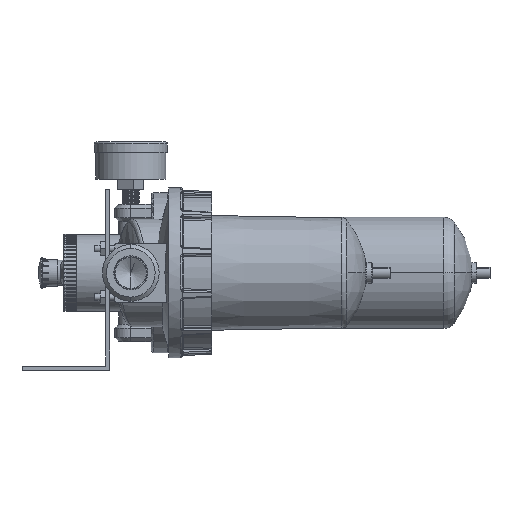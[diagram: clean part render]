
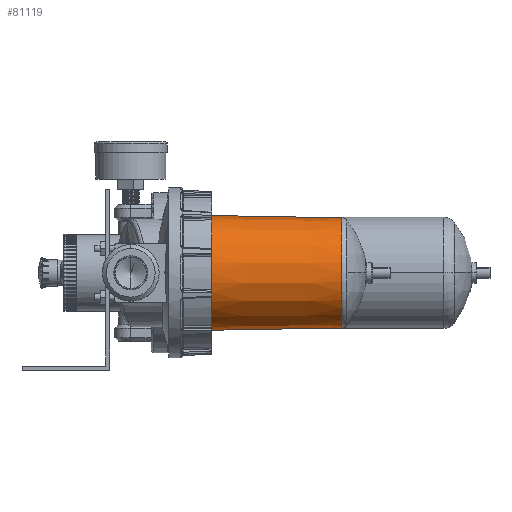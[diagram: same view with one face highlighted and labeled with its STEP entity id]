
A CAD part, left-side view. The second image highlights one B-rep face of the part: STEP entity #81119.
In plain terms, the highlighted conical face has half-angle 1 degrees and reference radius 40.75 mm.
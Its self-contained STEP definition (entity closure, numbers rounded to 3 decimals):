
#2519 = AXIS2_PLACEMENT_3D ( 'NONE', #72061, #3389, #58609 ) ;
#3389 = DIRECTION ( 'NONE',  ( 0., 1., 0. ) ) ;
#5481 = FACE_OUTER_BOUND ( 'NONE', #65193, .T. ) ;
#7512 = CARTESIAN_POINT ( 'NONE',  ( 0., 98.5, -42.469 ) ) ;
#21048 = ORIENTED_EDGE ( 'NONE', *, *, #43549, .F. ) ;
#21499 = EDGE_CURVE ( 'NONE', #22555, #67220, #43832, .T. ) ;
#21747 = CARTESIAN_POINT ( 'NONE',  ( 0., 2.184, 40.788 ) ) ;
#21987 = AXIS2_PLACEMENT_3D ( 'NONE', #65480, #27982, #71816 ) ;
#22555 = VERTEX_POINT ( 'NONE', #77978 ) ;
#25562 = VECTOR ( 'NONE', #80149, 1000. ) ;
#27982 = DIRECTION ( 'NONE',  ( 0., 1., 0. ) ) ;
#32211 = VERTEX_POINT ( 'NONE', #7512 ) ;
#36596 = CARTESIAN_POINT ( 'NONE',  ( 0., 0., 40.75 ) ) ;
#40537 = CARTESIAN_POINT ( 'NONE',  ( 0., 0., 0. ) ) ;
#40775 = ORIENTED_EDGE ( 'NONE', *, *, #72577, .T. ) ;
#42124 = AXIS2_PLACEMENT_3D ( 'NONE', #40537, #71211, #78076 ) ;
#43549 = EDGE_CURVE ( 'NONE', #22555, #32211, #67809, .T. ) ;
#43832 = CIRCLE ( 'NONE', #21987, 40.788 ) ;
#46880 = EDGE_CURVE ( 'NONE', #32211, #57449, #77477, .T. ) ;
#47554 = CARTESIAN_POINT ( 'NONE',  ( 0., 98.5, 42.469 ) ) ;
#50195 = ORIENTED_EDGE ( 'NONE', *, *, #46880, .F. ) ;
#51007 = LINE ( 'NONE', #36596, #25562 ) ;
#57449 = VERTEX_POINT ( 'NONE', #47554 ) ;
#58609 = DIRECTION ( 'NONE',  ( 0., 0., 1. ) ) ;
#62180 = CONICAL_SURFACE ( 'NONE', #42124, 40.75, 0.017 ) ;
#64885 = VECTOR ( 'NONE', #64926, 1000. ) ;
#64926 = DIRECTION ( 'NONE',  ( 0., 1., -0.017 ) ) ;
#65193 = EDGE_LOOP ( 'NONE', ( #21048, #73609, #40775, #50195 ) ) ;
#65480 = CARTESIAN_POINT ( 'NONE',  ( 0., 2.184, 0. ) ) ;
#67220 = VERTEX_POINT ( 'NONE', #21747 ) ;
#67809 = LINE ( 'NONE', #70706, #64885 ) ;
#70706 = CARTESIAN_POINT ( 'NONE',  ( 0., 0., -40.75 ) ) ;
#71211 = DIRECTION ( 'NONE',  ( 0., 1., 0. ) ) ;
#71816 = DIRECTION ( 'NONE',  ( 0., 0., -1. ) ) ;
#72061 = CARTESIAN_POINT ( 'NONE',  ( 0., 98.5, 0. ) ) ;
#72577 = EDGE_CURVE ( 'NONE', #67220, #57449, #51007, .T. ) ;
#73609 = ORIENTED_EDGE ( 'NONE', *, *, #21499, .T. ) ;
#77477 = CIRCLE ( 'NONE', #2519, 42.469 ) ;
#77978 = CARTESIAN_POINT ( 'NONE',  ( 0., 2.184, -40.788 ) ) ;
#78076 = DIRECTION ( 'NONE',  ( 0., 0., 1. ) ) ;
#80149 = DIRECTION ( 'NONE',  ( 0., 1., 0.017 ) ) ;
#81119 = ADVANCED_FACE ( 'NONE', ( #5481 ), #62180, .T. ) ;
